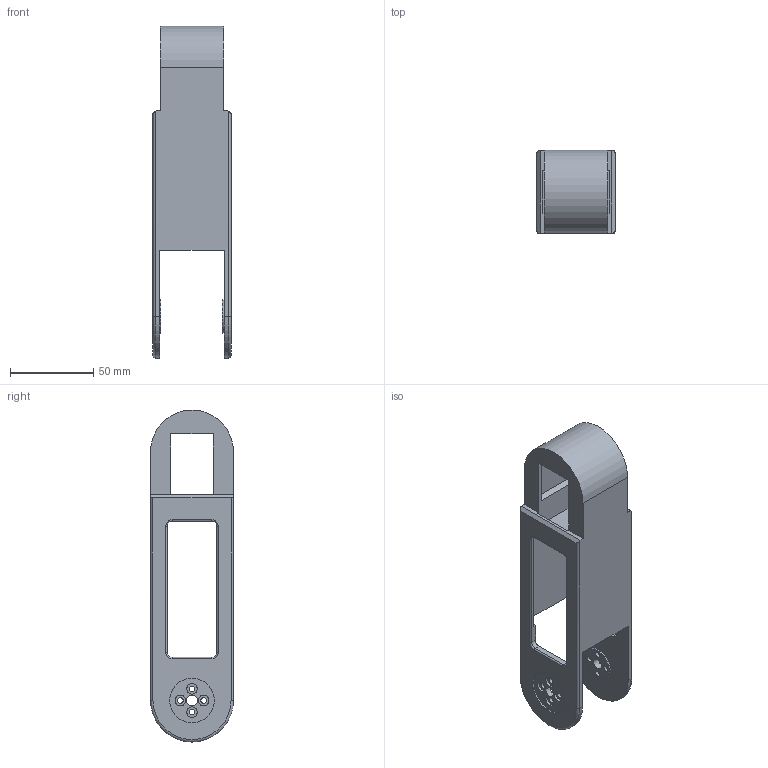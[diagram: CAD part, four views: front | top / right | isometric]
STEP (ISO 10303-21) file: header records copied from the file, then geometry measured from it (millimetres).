
FILE_DESCRIPTION(/* description */ ('B3 straight open bridge. 47 mm assembled width; 4 mm root cheeks, 2.5 mm hollow rails. Distal pitch end relieved inside the mating fork. Strength, screw retention and wiring remain prototype items.'),/* implementation_level */ '2;1');
FILE_NAME(/* name */ '10 lower straight bridge.step',/* time_stamp */ '2026-10-02T18:55:06+01:00',/* author */ (''),/* organization */ (''),/* preprocessor_version */ 'ST-DEVELOPER v20.2',/* originating_system */ 'Autodesk Translation Framework v15.15.0.0',/* authorisation */ '');
FILE_SCHEMA (('AUTOMOTIVE_DESIGN { 1 0 10303 214 3 1 1 }'));
Length unit declared in the file: millimetre
Products named in the file (1): 2026-10-02-18-55-05-879
Bounding box: 47 x 50 x 200 mm (x, y, z)
Volume: 77929.4 mm3; surface area: 54870.5 mm2
Topology: 1 solids, 1 shells, 122 faces, 312 edges, 200 vertices
Faces by surface type: plane 62, cylinder 50, torus 10
Full cylindrical faces by diameter (mm): 3.4 x8, 6.4 x8, 6.5 x2, 20 x2, 26.8 x2
Entity records: 3779 total; most frequent: DIRECTION 668, CARTESIAN_POINT 635, ORIENTED_EDGE 624, EDGE_CURVE 312, AXIS2_PLACEMENT_3D 233, LINE 202, VECTOR 202, VERTEX_POINT 200
